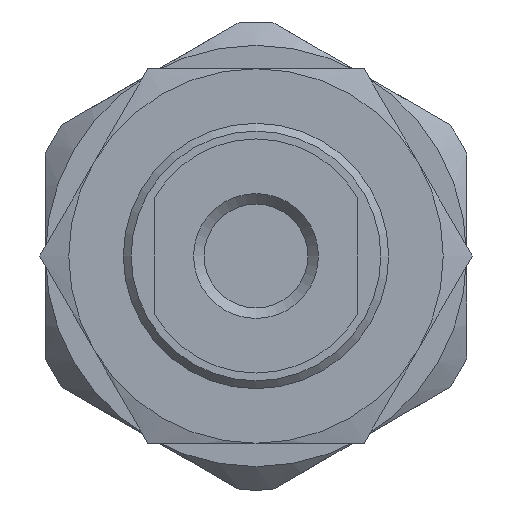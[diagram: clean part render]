
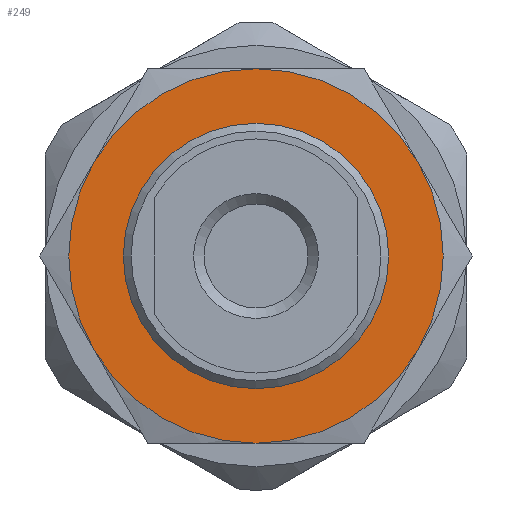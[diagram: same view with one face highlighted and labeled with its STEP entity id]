
A CAD part, left-side view. The second image highlights one B-rep face of the part: STEP entity #249.
In plain terms, the highlighted planar face has unit normal (-1, 0, 0).
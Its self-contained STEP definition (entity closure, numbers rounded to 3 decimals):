
#249 = ADVANCED_FACE( '', ( #410, #411 ), #412, .F. );
#410 = FACE_BOUND( '', #655, .T. );
#411 = FACE_OUTER_BOUND( '', #656, .T. );
#412 = PLANE( '', #657 );
#655 = EDGE_LOOP( '', ( #1141 ) );
#656 = EDGE_LOOP( '', ( #1142, #1143, #1144, #1145, #1146, #1147 ) );
#657 = AXIS2_PLACEMENT_3D( '', #1148, #1149, #1150 );
#1141 = ORIENTED_EDGE( '', *, *, #1688, .F. );
#1142 = ORIENTED_EDGE( '', *, *, #1694, .F. );
#1143 = ORIENTED_EDGE( '', *, *, #1695, .F. );
#1144 = ORIENTED_EDGE( '', *, *, #1696, .F. );
#1145 = ORIENTED_EDGE( '', *, *, #1598, .F. );
#1146 = ORIENTED_EDGE( '', *, *, #1697, .F. );
#1147 = ORIENTED_EDGE( '', *, *, #1698, .F. );
#1148 = CARTESIAN_POINT( '', ( 6.5, 7.5, 0. ) );
#1149 = DIRECTION( '', ( 1., 0., 0. ) );
#1150 = DIRECTION( '', ( 0., 0., -1. ) );
#1598 = EDGE_CURVE( '', #1849, #1850, #1851, .T. );
#1688 = EDGE_CURVE( '', #1998, #1998, #1999, .F. );
#1694 = EDGE_CURVE( '', #1864, #2008, #2009, .T. );
#1695 = EDGE_CURVE( '', #1873, #1864, #2010, .T. );
#1696 = EDGE_CURVE( '', #1850, #1873, #2011, .T. );
#1697 = EDGE_CURVE( '', #1846, #1849, #2012, .T. );
#1698 = EDGE_CURVE( '', #2008, #1846, #2013, .T. );
#1846 = VERTEX_POINT( '', #2306 );
#1849 = VERTEX_POINT( '', #2319 );
#1850 = VERTEX_POINT( '', #2320 );
#1851 = CIRCLE( '', #2321, 12. );
#1864 = VERTEX_POINT( '', #2356 );
#1873 = VERTEX_POINT( '', #2386 );
#1998 = VERTEX_POINT( '', #2669 );
#1999 = CIRCLE( '', #2670, 8.5 );
#2008 = VERTEX_POINT( '', #2679 );
#2009 = CIRCLE( '', #2680, 12. );
#2010 = CIRCLE( '', #2681, 12. );
#2011 = CIRCLE( '', #2682, 12. );
#2012 = CIRCLE( '', #2683, 12. );
#2013 = CIRCLE( '', #2684, 12. );
#2306 = CARTESIAN_POINT( '', ( 6.5, 0., 12. ) );
#2319 = CARTESIAN_POINT( '', ( 6.5, -10.392, 6. ) );
#2320 = CARTESIAN_POINT( '', ( 6.5, -10.392, -6. ) );
#2321 = AXIS2_PLACEMENT_3D( '', #2986, #2987, #2988 );
#2356 = CARTESIAN_POINT( '', ( 6.5, 10.392, -6. ) );
#2386 = CARTESIAN_POINT( '', ( 6.5, 0., -12. ) );
#2669 = CARTESIAN_POINT( '', ( 6.5, 0., -8.5 ) );
#2670 = AXIS2_PLACEMENT_3D( '', #3108, #3109, #3110 );
#2679 = CARTESIAN_POINT( '', ( 6.5, 10.392, 6. ) );
#2680 = AXIS2_PLACEMENT_3D( '', #3126, #3127, #3128 );
#2681 = AXIS2_PLACEMENT_3D( '', #3129, #3130, #3131 );
#2682 = AXIS2_PLACEMENT_3D( '', #3132, #3133, #3134 );
#2683 = AXIS2_PLACEMENT_3D( '', #3135, #3136, #3137 );
#2684 = AXIS2_PLACEMENT_3D( '', #3138, #3139, #3140 );
#2986 = CARTESIAN_POINT( '', ( 6.5, 0., 0. ) );
#2987 = DIRECTION( '', ( 1., 0., 0. ) );
#2988 = DIRECTION( '', ( 0., 0., -1. ) );
#3108 = CARTESIAN_POINT( '', ( 6.5, 0., 0. ) );
#3109 = DIRECTION( '', ( 1., 0., 0. ) );
#3110 = DIRECTION( '', ( 0., 0., -1. ) );
#3126 = CARTESIAN_POINT( '', ( 6.5, 0., 0. ) );
#3127 = DIRECTION( '', ( 1., 0., 0. ) );
#3128 = DIRECTION( '', ( 0., 0., -1. ) );
#3129 = CARTESIAN_POINT( '', ( 6.5, 0., 0. ) );
#3130 = DIRECTION( '', ( 1., 0., 0. ) );
#3131 = DIRECTION( '', ( 0., 0., -1. ) );
#3132 = CARTESIAN_POINT( '', ( 6.5, 0., 0. ) );
#3133 = DIRECTION( '', ( 1., 0., 0. ) );
#3134 = DIRECTION( '', ( 0., 0., -1. ) );
#3135 = CARTESIAN_POINT( '', ( 6.5, 0., 0. ) );
#3136 = DIRECTION( '', ( 1., 0., 0. ) );
#3137 = DIRECTION( '', ( 0., 0., -1. ) );
#3138 = CARTESIAN_POINT( '', ( 6.5, 0., 0. ) );
#3139 = DIRECTION( '', ( 1., 0., 0. ) );
#3140 = DIRECTION( '', ( 0., 0., -1. ) );
